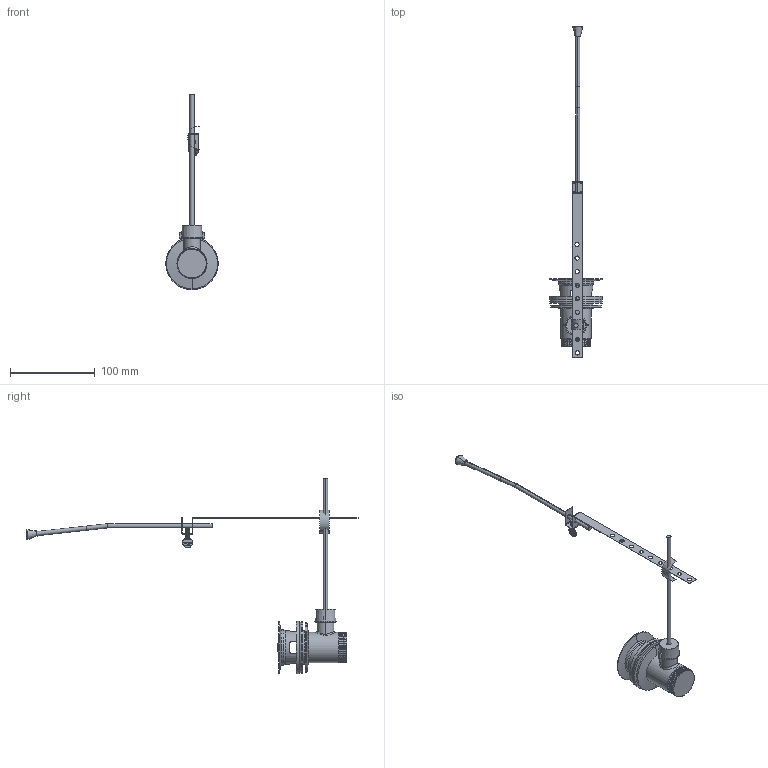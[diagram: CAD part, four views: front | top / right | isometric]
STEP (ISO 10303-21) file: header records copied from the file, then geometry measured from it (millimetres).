
FILE_DESCRIPTION (( 'STEP AP203' ), '1' );
FILE_NAME ('sf,012g.STEP', '2018-07-12T08:47:22', ( '' ), ( '' ), 'SwSTEP 2.0', 'SolidWorks 2018', '' );
FILE_SCHEMA (( 'CONFIG_CONTROL_DESIGN' ));
Length unit declared in the file: millimetre
Products named in the file (1): sf,012g
Bounding box: 62 x 392.15 x 231 mm (x, y, z)
Surface area: 57647.9 mm2 (no closed solid volume)
Topology: 0 solids, 13 shells, 231 faces, 570 edges, 364 vertices
Faces by surface type: cylinder 103, plane 88, bspline 18, cone 12, torus 10
Entity records: 12818 total; most frequent: CARTESIAN_POINT 7441, ORIENTED_EDGE 1128, DIRECTION 1075, EDGE_CURVE 568, AXIS2_PLACEMENT_3D 410, VERTEX_POINT 364, EDGE_LOOP 263, VECTOR 255
